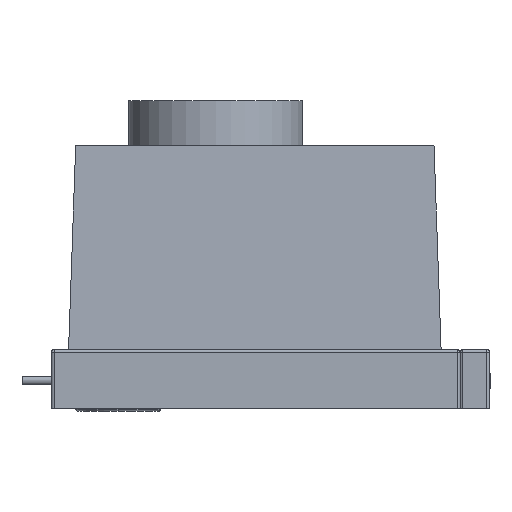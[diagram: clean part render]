
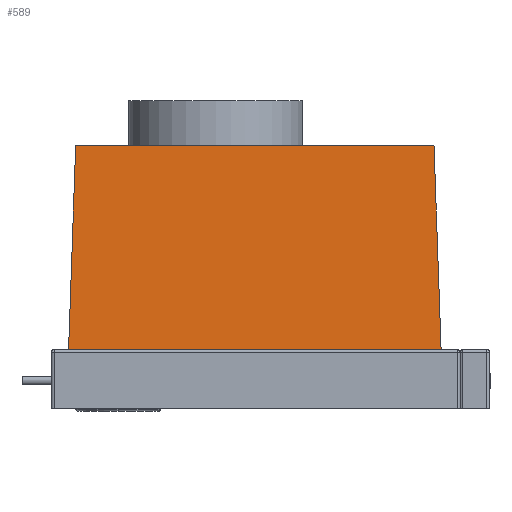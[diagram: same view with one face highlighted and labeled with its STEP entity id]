
A CAD part, front view. The second image highlights one B-rep face of the part: STEP entity #589.
In plain terms, the highlighted planar face has unit normal (0, -0.999, 0.035).
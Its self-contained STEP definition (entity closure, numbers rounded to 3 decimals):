
#308=FACE_OUTER_BOUND('',#932,.T.);
#589=ADVANCED_FACE('',(#308),#766,.T.);
#766=PLANE('',#3211);
#932=EDGE_LOOP('',(#1217,#1218,#1219,#1220));
#1217=ORIENTED_EDGE('',*,*,#2218,.T.);
#1218=ORIENTED_EDGE('',*,*,#2262,.F.);
#1219=ORIENTED_EDGE('',*,*,#2263,.F.);
#1220=ORIENTED_EDGE('',*,*,#2259,.T.);
#1948=VERTEX_POINT('',#4357);
#1949=VERTEX_POINT('',#4358);
#1971=VERTEX_POINT('',#4440);
#1973=VERTEX_POINT('',#4446);
#2218=EDGE_CURVE('',#1948,#1949,#2628,.T.);
#2259=EDGE_CURVE('',#1971,#1948,#2655,.T.);
#2262=EDGE_CURVE('',#1973,#1949,#2658,.T.);
#2263=EDGE_CURVE('',#1971,#1973,#2659,.T.);
#2628=LINE('',#4356,#2902);
#2655=LINE('',#4439,#2929);
#2658=LINE('',#4445,#2932);
#2659=LINE('',#4447,#2933);
#2902=VECTOR('',#3481,1.);
#2929=VECTOR('',#3574,1.);
#2932=VECTOR('',#3579,1.);
#2933=VECTOR('',#3580,1.);
#3211=AXIS2_PLACEMENT_3D('',#4448,#3581,#3582);
#3481=DIRECTION('',(1.,0.,0.));
#3574=DIRECTION('',(-0.035,-0.035,-0.999));
#3579=DIRECTION('',(0.035,-0.035,-0.999));
#3580=DIRECTION('',(1.,0.,0.));
#3581=DIRECTION('',(0.,-0.999,0.035));
#3582=DIRECTION('',(0.,-0.035,-0.999));
#4356=CARTESIAN_POINT('',(-128.5,-380.,40.5));
#4357=CARTESIAN_POINT('',(-128.5,-380.,40.5));
#4358=CARTESIAN_POINT('',(127.5,-380.,40.5));
#4439=CARTESIAN_POINT('',(-128.5,-380.,40.5));
#4440=CARTESIAN_POINT('',(-123.611,-375.111,180.5));
#4445=CARTESIAN_POINT('',(127.5,-380.,40.5));
#4446=CARTESIAN_POINT('',(122.611,-375.111,180.5));
#4447=CARTESIAN_POINT('',(-128.5,-375.111,180.5));
#4448=CARTESIAN_POINT('',(-128.5,-380.,40.5));
